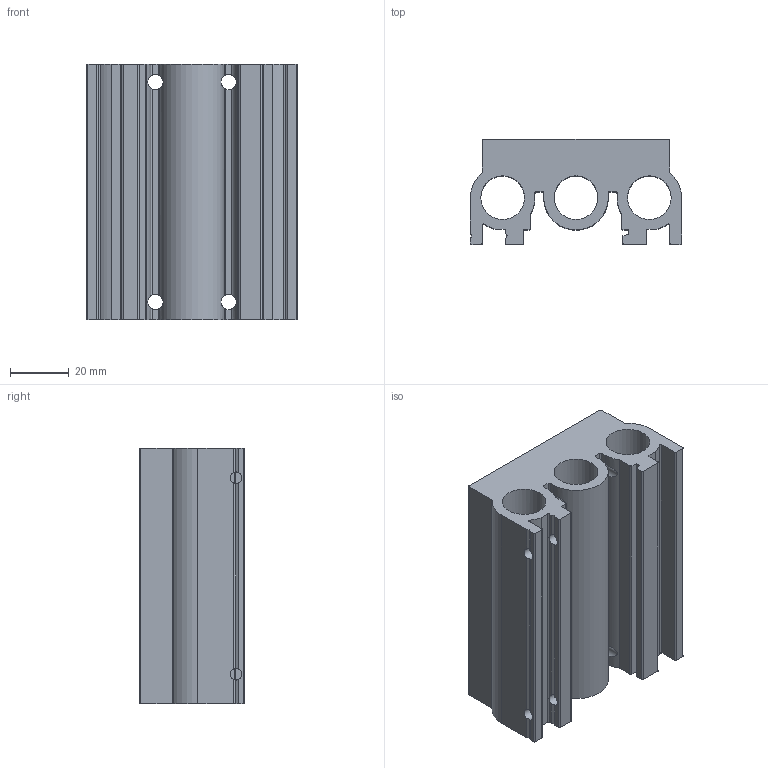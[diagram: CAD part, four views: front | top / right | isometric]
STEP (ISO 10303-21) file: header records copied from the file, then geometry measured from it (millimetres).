
FILE_DESCRIPTION(/* description */ ('COLLETTORE G1/4" 2 POSTI (TECNO-ECO)'),/* implementation_level */ '2;1');
FILE_NAME(/* name */ 'I:\Area Tecnica\Disegni\VARIE-3D\Componenti\T400\T424\T424_##\T424_02.stp',/* time_stamp */ '2015-09-23T13:41:23+02:00',/* author */ ('maniean1'),/* organization */ (''),/* preprocessor_version */ 'ST-DEVELOPER v15.2',/* originating_system */ 'Autodesk Inventor 2014',/* authorisation */ '');
FILE_SCHEMA (('AUTOMOTIVE_DESIGN { 1 0 10303 214 3 1 1 }'));
Length unit declared in the file: millimetre
Products named in the file (1): T424_02
Bounding box: 72 x 36 x 87 mm (x, y, z)
Volume: 124011.7 mm3; surface area: 44002.1 mm2
Topology: 1 solids, 1 shells, 153 faces, 425 edges, 280 vertices
Faces by surface type: plane 75, cylinder 72, cone 6
Full cylindrical faces by diameter (mm): 4 x10, 5.25 x4, 8 x6, 9 x4, 14.9 x3, 16.8 x6
Entity records: 5238 total; most frequent: CARTESIAN_POINT 1348, DIRECTION 808, ORIENTED_EDGE 756, EDGE_CURVE 378, AXIS2_PLACEMENT_3D 308, VERTEX_POINT 272, EDGE_LOOP 232, LINE 192
